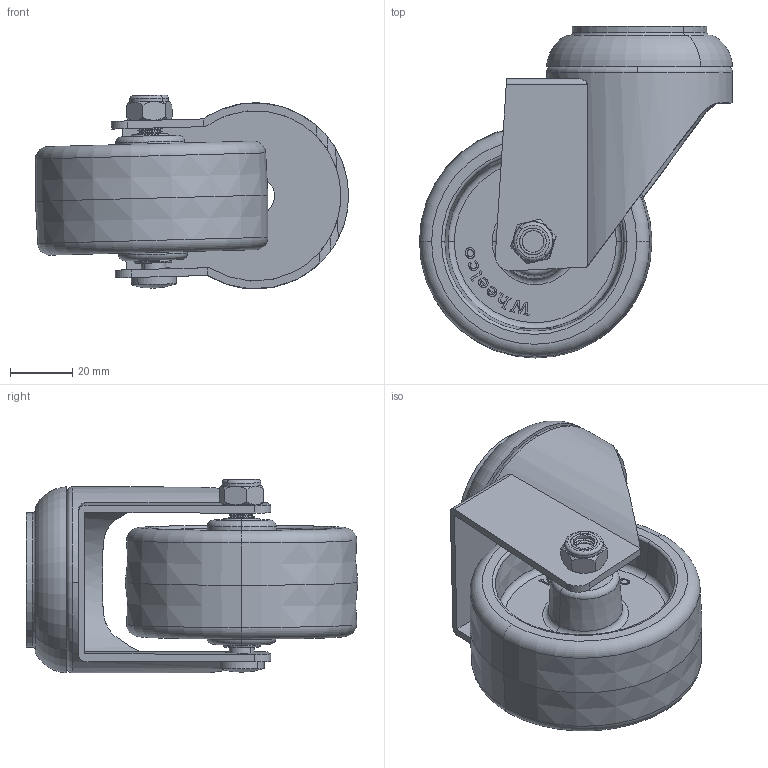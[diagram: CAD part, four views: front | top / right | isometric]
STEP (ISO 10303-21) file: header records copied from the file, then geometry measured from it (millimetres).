
FILE_DESCRIPTION (( 'STEP AP214' ), '1' );
FILE_NAME ('WCN75-H.step', '2024-01-12T00:42:53', ( '' ), ( '' ), 'SwSTEP 2.0', 'SolidWorks 2022', '' );
FILE_SCHEMA (( 'AUTOMOTIVE_DESIGN' ));
Length unit declared in the file: millimetre
Products named in the file (7): 61 TOP; SP12-8-41; WC-M8x55; WCN75-H; WCN75; M8Nyloc
Assembly tree (6 placements, depth 2):
  WCN75-H
    WCN75-H
    61 TOP
    WC-M8x55
    M8Nyloc
    WCN75
    SP12-8-41
Bounding box: 100.97 x 107 x 62.49 mm (x, y, z)
Volume: 158336.3 mm3; surface area: 57821.7 mm2
Topology: 6 solids, 6 shells, 684 faces, 1843 edges, 1215 vertices
Faces by surface type: plane 369, bspline 185, cylinder 69, torus 34, cone 26, sphere 1
Entity records: 36627 total; most frequent: CARTESIAN_POINT 17978, ORIENTED_EDGE 3680, DIRECTION 2552, EDGE_CURVE 1840, VERTEX_POINT 1213, VECTOR 1196, LINE 1196, EDGE_LOOP 743
